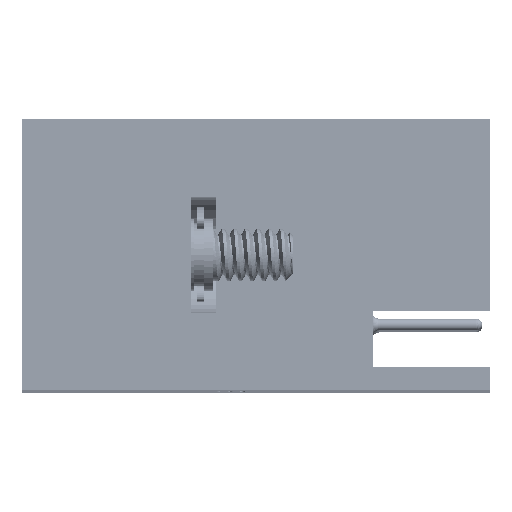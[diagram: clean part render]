
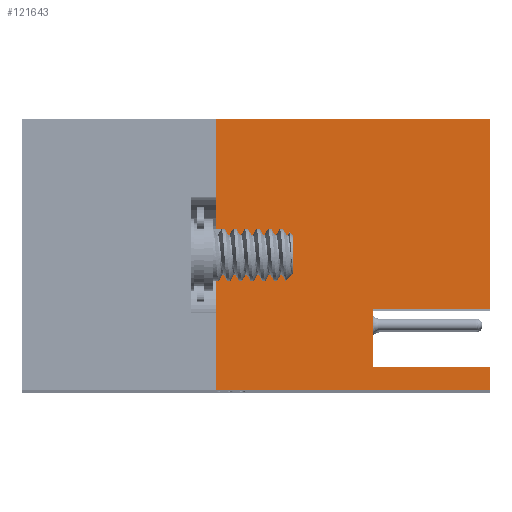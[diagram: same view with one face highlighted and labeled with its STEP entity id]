
A CAD part, top view. The second image highlights one B-rep face of the part: STEP entity #121643.
In plain terms, the highlighted planar face has unit normal (0, 0, 1).
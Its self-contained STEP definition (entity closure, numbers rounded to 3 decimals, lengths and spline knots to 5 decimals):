
#20837=FACE_OUTER_BOUND('',#28426,.T.);
#28426=EDGE_LOOP('',(#81331,#81332,#81333,#81334,#81335,#81336,#81337,#81338));
#36056=LINE('',#164188,#40996);
#36342=LINE('',#165543,#41282);
#36370=LINE('',#165599,#41310);
#36380=LINE('',#165619,#41320);
#36587=LINE('',#166479,#41527);
#37669=LINE('',#172997,#42609);
#37693=LINE('',#173056,#42633);
#37702=LINE('',#174372,#42642);
#40996=VECTOR('',#138386,0.59);
#41282=VECTOR('',#138724,0.05);
#41310=VECTOR('',#138760,0.59);
#41320=VECTOR('',#138780,0.409);
#41527=VECTOR('',#139125,0.125);
#42609=VECTOR('',#141431,0.252);
#42633=VECTOR('',#141489,0.584);
#42642=VECTOR('',#143312,0.252);
#45936=VERTEX_POINT('',#164185);
#45937=VERTEX_POINT('',#164187);
#46356=VERTEX_POINT('',#165541);
#46379=VERTEX_POINT('',#165596);
#46380=VERTEX_POINT('',#165598);
#46385=VERTEX_POINT('',#165618);
#46568=VERTEX_POINT('',#166476);
#46569=VERTEX_POINT('',#166478);
#58300=EDGE_CURVE('',#45937,#45936,#36056,.T.);
#58742=EDGE_CURVE('',#45936,#46356,#36342,.T.);
#58770=EDGE_CURVE('',#46379,#46380,#36370,.T.);
#58781=EDGE_CURVE('',#46385,#46380,#36380,.T.);
#59044=EDGE_CURVE('',#46569,#46568,#36587,.T.);
#60732=EDGE_CURVE('',#46568,#46385,#37669,.T.);
#60762=EDGE_CURVE('',#45937,#46379,#37693,.T.);
#61171=EDGE_CURVE('',#46356,#46569,#37702,.T.);
#81331=ORIENTED_EDGE('',*,*,#60732,.T.);
#81332=ORIENTED_EDGE('',*,*,#58781,.T.);
#81333=ORIENTED_EDGE('',*,*,#58770,.F.);
#81334=ORIENTED_EDGE('',*,*,#60762,.F.);
#81335=ORIENTED_EDGE('',*,*,#58300,.T.);
#81336=ORIENTED_EDGE('',*,*,#58742,.T.);
#81337=ORIENTED_EDGE('',*,*,#61171,.T.);
#81338=ORIENTED_EDGE('',*,*,#59044,.T.);
#110845=PLANE('',#129606);
#121643=ADVANCED_FACE('',(#20837),#110845,.T.);
#129606=AXIS2_PLACEMENT_3D('',#174403,#143358,#143359);
#138386=DIRECTION('',(1.,0.,0.));
#138724=DIRECTION('',(0.,1.,0.));
#138760=DIRECTION('',(1.,0.,0.));
#138780=DIRECTION('',(0.,1.,0.));
#139125=DIRECTION('',(0.,1.,0.));
#141431=DIRECTION('',(1.,0.,0.));
#141489=DIRECTION('',(0.,1.,0.));
#143312=DIRECTION('',(-1.,0.,0.));
#143358=DIRECTION('center_axis',(0.,0.,1.));
#143359=DIRECTION('ref_axis',(1.,0.,0.));
#164185=CARTESIAN_POINT('',(1.008,0.,2.957));
#164187=CARTESIAN_POINT('',(0.418,0.,2.957));
#164188=CARTESIAN_POINT('',(0.418,0.,2.957));
#165541=CARTESIAN_POINT('',(1.008,0.05,2.957));
#165543=CARTESIAN_POINT('',(1.008,0.,2.957));
#165596=CARTESIAN_POINT('',(0.418,0.584,2.957));
#165598=CARTESIAN_POINT('',(1.008,0.584,2.957));
#165599=CARTESIAN_POINT('',(0.418,0.584,2.957));
#165618=CARTESIAN_POINT('',(1.008,0.175,2.957));
#165619=CARTESIAN_POINT('',(1.008,0.,2.957));
#166476=CARTESIAN_POINT('',(0.756,0.175,2.957));
#166478=CARTESIAN_POINT('',(0.756,0.05,2.957));
#166479=CARTESIAN_POINT('',(0.756,0.05625,2.957));
#172997=CARTESIAN_POINT('',(0.713,0.175,2.957));
#173056=CARTESIAN_POINT('',(0.418,0.146,2.957));
#174372=CARTESIAN_POINT('',(0.713,0.05,2.957));
#174403=CARTESIAN_POINT('Origin',(0.418,0.,2.957));
